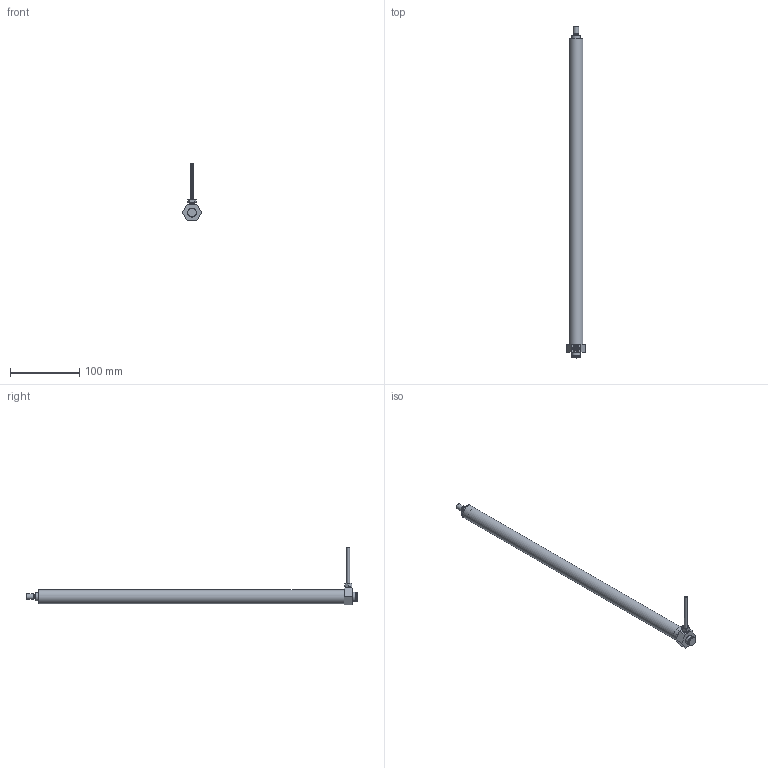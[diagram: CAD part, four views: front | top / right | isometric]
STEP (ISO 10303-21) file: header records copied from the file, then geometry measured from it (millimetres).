
FILE_DESCRIPTION(/* description */ ('Unknown'),/* implementation_level */ '2;1');
FILE_NAME(/* name */ '109.50144 Zylinder CH 1840_eingefahren',/* time_stamp */ '2018-04-27T09:06:11+02:00',/* author */ ('Unknown'),/* organization */ ('Unknown'),/* preprocessor_version */ 'ST-DEVELOPER v16.7',/* originating_system */ 'DEX',/* authorisation */ $);
FILE_SCHEMA (('AUTOMOTIVE_DESIGN {1 0 10303 214 3 1 1}'));
Length unit declared in the file: millimetre
Products named in the file (9): 109.50144; 121.50004; 142.00021; 125.00021; 115.00008_oa_0; 125.00063; 120.00024; 122.00012; 113.00002_70mm
Assembly tree (8 placements, depth 2):
  109.50144
    121.50004
    142.00021
    125.00021
    115.00008_oa_0
    125.00063
    120.00024
    122.00012
    113.00002_70mm
Bounding box: 27.71 x 478 x 83.5 mm (x, y, z)
Volume: 86246.2 mm3; surface area: 76025.2 mm2
Topology: 7 solids, 7 shells, 99 faces, 201 edges, 126 vertices
Faces by surface type: plane 38, cylinder 29, cone 25, torus 6, sphere 1
Full cylindrical faces by diameter (mm): 2.2 x1, 3 x1, 3.5 x1, 4 x1, 4.1 x1, 4.2 x1, 6 x1, 6.917 x2, 7.763 x2, 8 x4, 8.1 x3, 12 x2, 12.5 x1, 13 x2, 14.4 x1, 17.9 x2, 18 x2, 20 x1
Entity records: 3012 total; most frequent: DIRECTION 418, CARTESIAN_POINT 415, ORIENTED_EDGE 268, AXIS2_PLACEMENT_3D 190, FACE_BOUND 176, EDGE_LOOP 174, EDGE_CURVE 134, VERTEX_POINT 116
